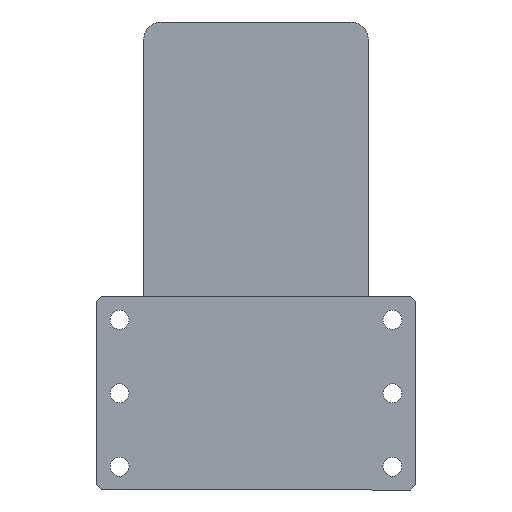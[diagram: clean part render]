
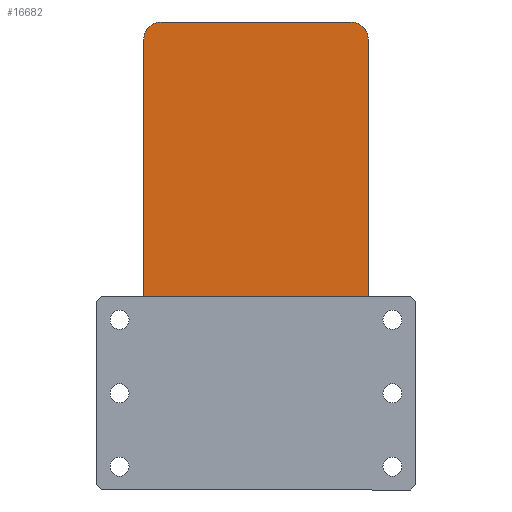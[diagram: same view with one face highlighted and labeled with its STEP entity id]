
A CAD part, left-side view. The second image highlights one B-rep face of the part: STEP entity #16682.
In plain terms, the highlighted planar face has unit normal (-1, 0, 0) as drawn and (0, 0, 1) by its records, which use the part's own axes.
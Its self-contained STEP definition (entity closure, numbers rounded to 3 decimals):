
#302 = EDGE_CURVE ( 'NONE', #4401, #880, #3918, .T. ) ;
#496 = EDGE_CURVE ( 'NONE', #6615, #16373, #3329, .T. ) ;
#615 = EDGE_CURVE ( 'NONE', #12593, #1507, #3006, .T. ) ;
#696 = EDGE_CURVE ( 'NONE', #1507, #10583, #2912, .T. ) ;
#784 = EDGE_CURVE ( 'NONE', #12614, #4401, #2599, .T. ) ;
#814 = EDGE_CURVE ( 'NONE', #880, #6615, #2671, .T. ) ;
#819 = EDGE_CURVE ( 'NONE', #16373, #12593, #2518, .T. ) ;
#880 = VERTEX_POINT ( 'NONE', #20935 ) ;
#1507 = VERTEX_POINT ( 'NONE', #10833 ) ;
#2518 = CIRCLE ( 'NONE', #14882, 10. ) ;
#2599 = CIRCLE ( 'NONE', #3711, 10. ) ;
#2671 = CIRCLE ( 'NONE', #13820, 10. ) ;
#2912 = CIRCLE ( 'NONE', #5098, 10. ) ;
#2985 = VECTOR ( 'NONE', #3114, 1000. ) ;
#3006 = LINE ( 'NONE', #4907, #2985 ) ;
#3114 = DIRECTION ( 'NONE',  ( 1., 0., 0. ) ) ;
#3307 = VECTOR ( 'NONE', #19194, 1000. ) ;
#3319 = CARTESIAN_POINT ( 'NONE',  ( 55., 135., 105. ) ) ;
#3329 = LINE ( 'NONE', #19200, #3307 ) ;
#3711 = AXIS2_PLACEMENT_3D ( 'NONE', #20384, #20399, #20430 ) ;
#3898 = VECTOR ( 'NONE', #16180, 1000. ) ;
#3918 = LINE ( 'NONE', #16876, #3898 ) ;
#4401 = VERTEX_POINT ( 'NONE', #3319 ) ;
#4907 = CARTESIAN_POINT ( 'NONE',  ( -65., -135., 105. ) ) ;
#4921 = CARTESIAN_POINT ( 'NONE',  ( -65., 125., 105. ) ) ;
#5098 = AXIS2_PLACEMENT_3D ( 'NONE', #19912, #19942, #19961 ) ;
#5181 = ORIENTED_EDGE ( 'NONE', *, *, #302, .T. ) ;
#5440 = EDGE_LOOP ( 'NONE', ( #8319, #8914, #7412, #9824, #5181, #6470, #17657, #11719 ) ) ;
#6470 = ORIENTED_EDGE ( 'NONE', *, *, #814, .T. ) ;
#6615 = VERTEX_POINT ( 'NONE', #4921 ) ;
#7412 = ORIENTED_EDGE ( 'NONE', *, *, #23186, .T. ) ;
#7850 = CARTESIAN_POINT ( 'NONE',  ( 65., 135., 105. ) ) ;
#8319 = ORIENTED_EDGE ( 'NONE', *, *, #615, .T. ) ;
#8594 = CARTESIAN_POINT ( 'NONE',  ( -65., -125., 105. ) ) ;
#8914 = ORIENTED_EDGE ( 'NONE', *, *, #696, .T. ) ;
#9824 = ORIENTED_EDGE ( 'NONE', *, *, #784, .T. ) ;
#10540 = VECTOR ( 'NONE', #19778, 1000. ) ;
#10583 = VERTEX_POINT ( 'NONE', #14249 ) ;
#10833 = CARTESIAN_POINT ( 'NONE',  ( 55., -135., 105. ) ) ;
#11719 = ORIENTED_EDGE ( 'NONE', *, *, #819, .T. ) ;
#12593 = VERTEX_POINT ( 'NONE', #12936 ) ;
#12614 = VERTEX_POINT ( 'NONE', #12910 ) ;
#12910 = CARTESIAN_POINT ( 'NONE',  ( 65., 125., 105. ) ) ;
#12936 = CARTESIAN_POINT ( 'NONE',  ( -55., -135., 105. ) ) ;
#13820 = AXIS2_PLACEMENT_3D ( 'NONE', #20656, #20661, #20706 ) ;
#14249 = CARTESIAN_POINT ( 'NONE',  ( 65., -125., 105. ) ) ;
#14882 = AXIS2_PLACEMENT_3D ( 'NONE', #20735, #20756, #20772 ) ;
#16180 = DIRECTION ( 'NONE',  ( -1., 0., 0. ) ) ;
#16373 = VERTEX_POINT ( 'NONE', #8594 ) ;
#16682 = ADVANCED_FACE ( 'NONE', ( #22639 ), #22807, .T. ) ;
#16876 = CARTESIAN_POINT ( 'NONE',  ( -65., 135., 105. ) ) ;
#17657 = ORIENTED_EDGE ( 'NONE', *, *, #496, .T. ) ;
#19194 = DIRECTION ( 'NONE',  ( 0., -1., 0. ) ) ;
#19200 = CARTESIAN_POINT ( 'NONE',  ( -65., 135., 105. ) ) ;
#19778 = DIRECTION ( 'NONE',  ( 0., 1., 0. ) ) ;
#19912 = CARTESIAN_POINT ( 'NONE',  ( 55., -125., 105. ) ) ;
#19942 = DIRECTION ( 'NONE',  ( 0., 0., 1. ) ) ;
#19961 = DIRECTION ( 'NONE',  ( 1., 0., 0. ) ) ;
#20384 = CARTESIAN_POINT ( 'NONE',  ( 55., 125., 105. ) ) ;
#20399 = DIRECTION ( 'NONE',  ( 0., 0., 1. ) ) ;
#20430 = DIRECTION ( 'NONE',  ( 1., 0., 0. ) ) ;
#20656 = CARTESIAN_POINT ( 'NONE',  ( -55., 125., 105. ) ) ;
#20661 = DIRECTION ( 'NONE',  ( 0., 0., 1. ) ) ;
#20706 = DIRECTION ( 'NONE',  ( 1., 0., 0. ) ) ;
#20735 = CARTESIAN_POINT ( 'NONE',  ( -55., -125., 105. ) ) ;
#20756 = DIRECTION ( 'NONE',  ( 0., 0., 1. ) ) ;
#20772 = DIRECTION ( 'NONE',  ( 1., 0., 0. ) ) ;
#20935 = CARTESIAN_POINT ( 'NONE',  ( -55., 135., 105. ) ) ;
#21088 = AXIS2_PLACEMENT_3D ( 'NONE', #22322, #22296, #22244 ) ;
#22244 = DIRECTION ( 'NONE',  ( 1., 0., 0. ) ) ;
#22296 = DIRECTION ( 'NONE',  ( 0., 0., 1. ) ) ;
#22322 = CARTESIAN_POINT ( 'NONE',  ( 0., 0., 105. ) ) ;
#22639 = FACE_OUTER_BOUND ( 'NONE', #5440, .T. ) ;
#22807 = PLANE ( 'NONE',  #21088 ) ;
#23186 = EDGE_CURVE ( 'NONE', #10583, #12614, #23240, .T. ) ;
#23240 = LINE ( 'NONE', #7850, #10540 ) ;
